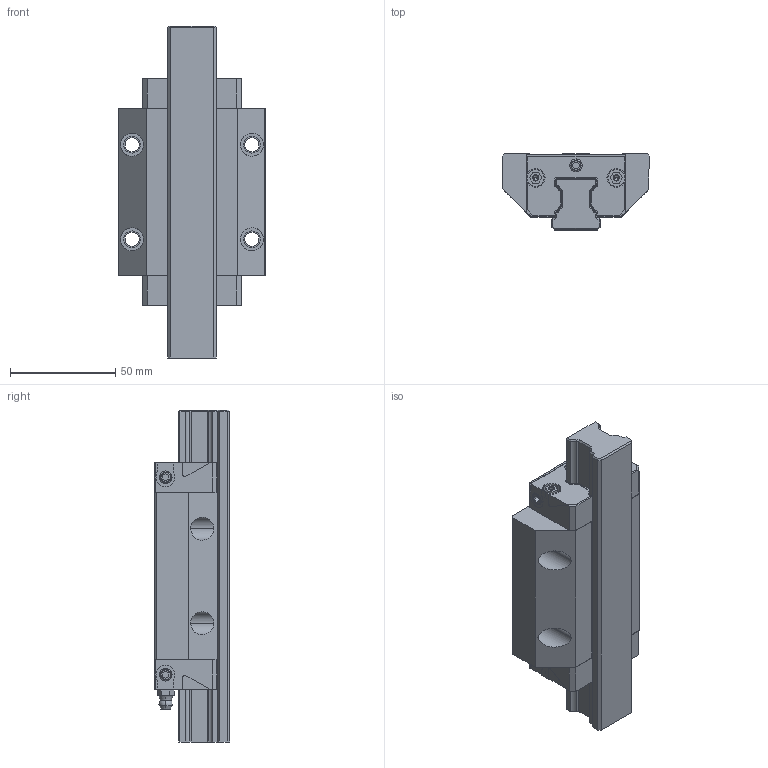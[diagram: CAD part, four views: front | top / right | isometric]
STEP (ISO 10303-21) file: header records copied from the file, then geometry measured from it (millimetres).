
FILE_DESCRIPTION((''),'2;1');
FILE_NAME('KWD_025_FLS_CS__ASM','2021-10-13T05:36:35',('ac91sw'),(''),'CREO PARAMETRIC BY PTC INC, 2020044','CREO PARAMETRIC BY PTC INC, 2020044','');
FILE_SCHEMA(('AUTOMOTIVE_DESIGN { 1 0 10303 214 1 1 1 1 }'));
Length unit declared in the file: millimetre
Products named in the file (7): KWD_025_FLS_CS__SKEL; R200220131; R200120102_Z; R343706101_Z; KWD_025_FLS_CS__PSF; R341700802_Z; KWD_025_FLS_CS__ASM
Assembly tree (11 placements, depth 2):
  KWD_025_FLS_CS__ASM
    KWD_025_FLS_CS__SKEL
    R200220131
    R200120102_Z  x2
    R343706101_Z  x5
    KWD_025_FLS_CS__PSF
    R341700802_Z
Bounding box: 70 x 36 x 157.9 mm (x, y, z)
Volume: 196917.7 mm3; surface area: 60056.3 mm2
Topology: 10 solids, 28 shells, 550 faces, 1406 edges, 902 vertices
Faces by surface type: plane 310, cylinder 166, cone 68, torus 4, sphere 2
Entity records: 17850 total; most frequent: CARTESIAN_POINT 2343, DIRECTION 1872, ORIENTED_EDGE 1732, EDGE_CURVE 890, PROPERTY_DEFINITION 823, REPRESENTATION 814, PROPERTY_DEFINITION_REPRESENTATION 814, DESCRIPTIVE_REPRESENTATION_ITEM 757
